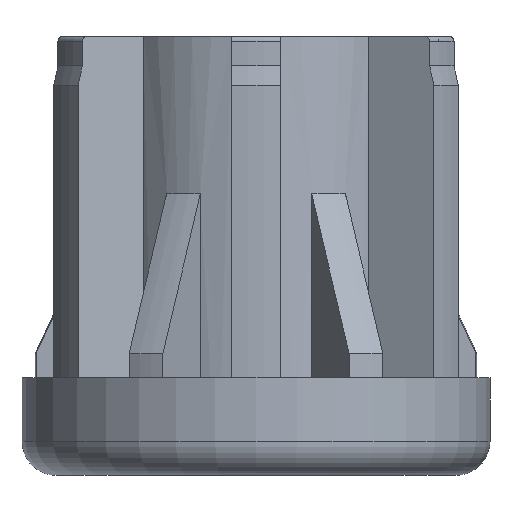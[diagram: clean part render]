
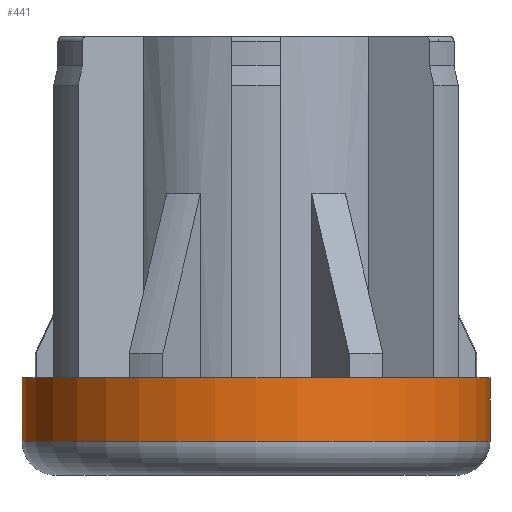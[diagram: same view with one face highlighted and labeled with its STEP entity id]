
A CAD part, front view. The second image highlights one B-rep face of the part: STEP entity #441.
In plain terms, the highlighted cylindrical face has radius 24 mm (diameter 48 mm), a partial arc.
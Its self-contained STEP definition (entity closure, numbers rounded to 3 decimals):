
#57 = CARTESIAN_POINT ( 'NONE',  ( 0., 0., -6.5 ) ) ;
#71 = ORIENTED_EDGE ( 'NONE', *, *, #2743, .F. ) ;
#111 = CARTESIAN_POINT ( 'NONE',  ( 24., 0., 0. ) ) ;
#296 = VERTEX_POINT ( 'NONE', #111 ) ;
#344 = VECTOR ( 'NONE', #2025, 1000. ) ;
#348 = ORIENTED_EDGE ( 'NONE', *, *, #945, .T. ) ;
#441 = ADVANCED_FACE ( 'NONE', ( #2121 ), #989, .T. ) ;
#567 = DIRECTION ( 'NONE',  ( 0., 0., 1. ) ) ;
#597 = CARTESIAN_POINT ( 'NONE',  ( 24., 0., -10. ) ) ;
#602 = VERTEX_POINT ( 'NONE', #2409 ) ;
#933 = VERTEX_POINT ( 'NONE', #1525 ) ;
#945 = EDGE_CURVE ( 'NONE', #602, #296, #1977, .T. ) ;
#947 = CARTESIAN_POINT ( 'NONE',  ( 0., 0., -10. ) ) ;
#949 = EDGE_CURVE ( 'NONE', #933, #602, #3303, .T. ) ;
#979 = AXIS2_PLACEMENT_3D ( 'NONE', #2734, #983, #2756 ) ;
#983 = DIRECTION ( 'NONE',  ( 0., 0., 1. ) ) ;
#989 = CYLINDRICAL_SURFACE ( 'NONE', #1777, 24. ) ;
#1382 = ORIENTED_EDGE ( 'NONE', *, *, #949, .T. ) ;
#1525 = CARTESIAN_POINT ( 'NONE',  ( -24., 0., -6.5 ) ) ;
#1574 = VERTEX_POINT ( 'NONE', #3199 ) ;
#1643 = VECTOR ( 'NONE', #567, 1000. ) ;
#1649 = EDGE_CURVE ( 'NONE', #1574, #296, #1843, .T. ) ;
#1721 = ORIENTED_EDGE ( 'NONE', *, *, #1649, .F. ) ;
#1746 = CARTESIAN_POINT ( 'NONE',  ( -24., 0., -10. ) ) ;
#1777 = AXIS2_PLACEMENT_3D ( 'NONE', #947, #1967, #2038 ) ;
#1825 = DIRECTION ( 'NONE',  ( 0., 0., 1. ) ) ;
#1843 = CIRCLE ( 'NONE', #979, 24. ) ;
#1967 = DIRECTION ( 'NONE',  ( 0., 0., 1. ) ) ;
#1977 = LINE ( 'NONE', #597, #1643 ) ;
#2025 = DIRECTION ( 'NONE',  ( 0., 0., 1. ) ) ;
#2038 = DIRECTION ( 'NONE',  ( 1., 0., 0. ) ) ;
#2121 = FACE_OUTER_BOUND ( 'NONE', #3160, .T. ) ;
#2409 = CARTESIAN_POINT ( 'NONE',  ( 24., 0., -6.5 ) ) ;
#2646 = DIRECTION ( 'NONE',  ( 1., 0., 0. ) ) ;
#2734 = CARTESIAN_POINT ( 'NONE',  ( 0., 0., 0. ) ) ;
#2743 = EDGE_CURVE ( 'NONE', #933, #1574, #2760, .T. ) ;
#2756 = DIRECTION ( 'NONE',  ( 1., 0., 0. ) ) ;
#2760 = LINE ( 'NONE', #1746, #344 ) ;
#2885 = AXIS2_PLACEMENT_3D ( 'NONE', #57, #1825, #2646 ) ;
#3160 = EDGE_LOOP ( 'NONE', ( #71, #1382, #348, #1721 ) ) ;
#3199 = CARTESIAN_POINT ( 'NONE',  ( -24., 0., 0. ) ) ;
#3303 = CIRCLE ( 'NONE', #2885, 24. ) ;
